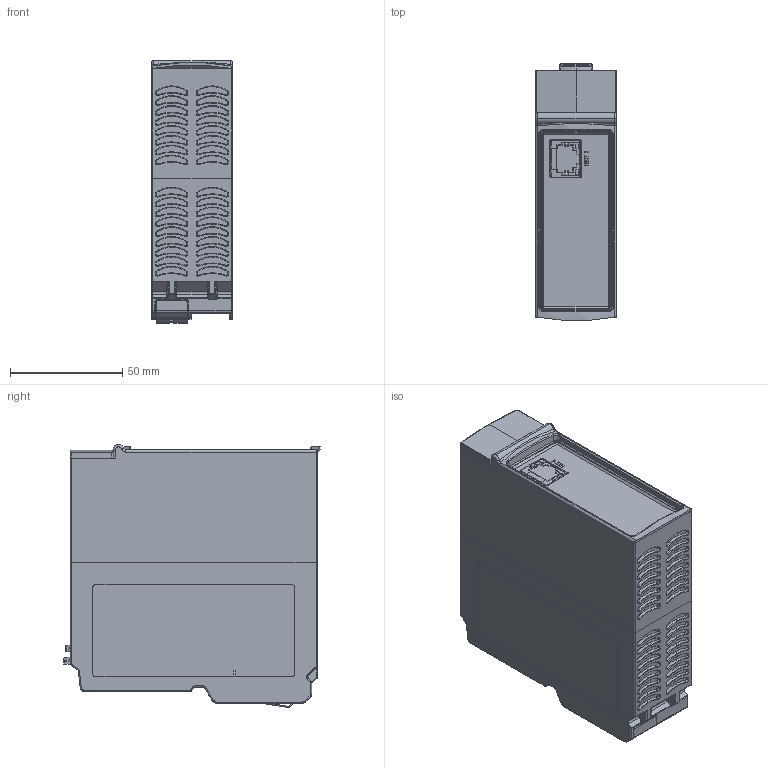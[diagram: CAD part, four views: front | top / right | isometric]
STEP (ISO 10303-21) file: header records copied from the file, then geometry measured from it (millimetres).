
FILE_DESCRIPTION (( 'STEP AP214' ), '1' );
FILE_NAME ('NX5000_20130711.STEP', '2013-07-11T15:40:50', ( 'Gilberto' ), ( '' ), 'SwSTEP 2.0', 'SolidWorks 2011', '' );
FILE_SCHEMA (( 'AUTOMOTIVE_DESIGN' ));
Length unit declared in the file: millimetre
Products named in the file (1): NX5000_20130711
Bounding box: 36 x 114.46 x 117.09 mm (x, y, z)
Volume: 406264.5 mm3; surface area: 67690.5 mm2
Topology: 10 solids, 12 shells, 2024 faces, 4966 edges, 3036 vertices
Faces by surface type: plane 666, bspline 579, cylinder 339, torus 230, cone 200, sphere 10
Entity records: 93174 total; most frequent: CARTESIAN_POINT 27882, ORIENTED_EDGE 9894, DIRECTION 7779, EDGE_CURVE 4947, VERTEX_POINT 3034, AXIS2_PLACEMENT_3D 2975, EDGE_LOOP 2113, UNCERTAINTY_MEASURE_WITH_UNIT 2034
